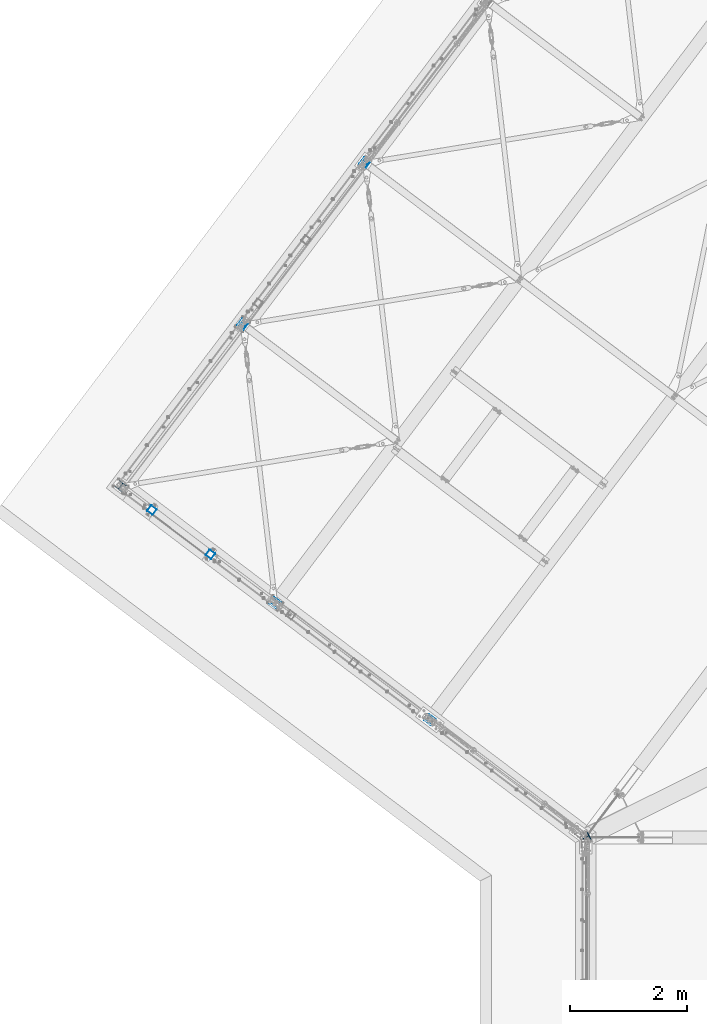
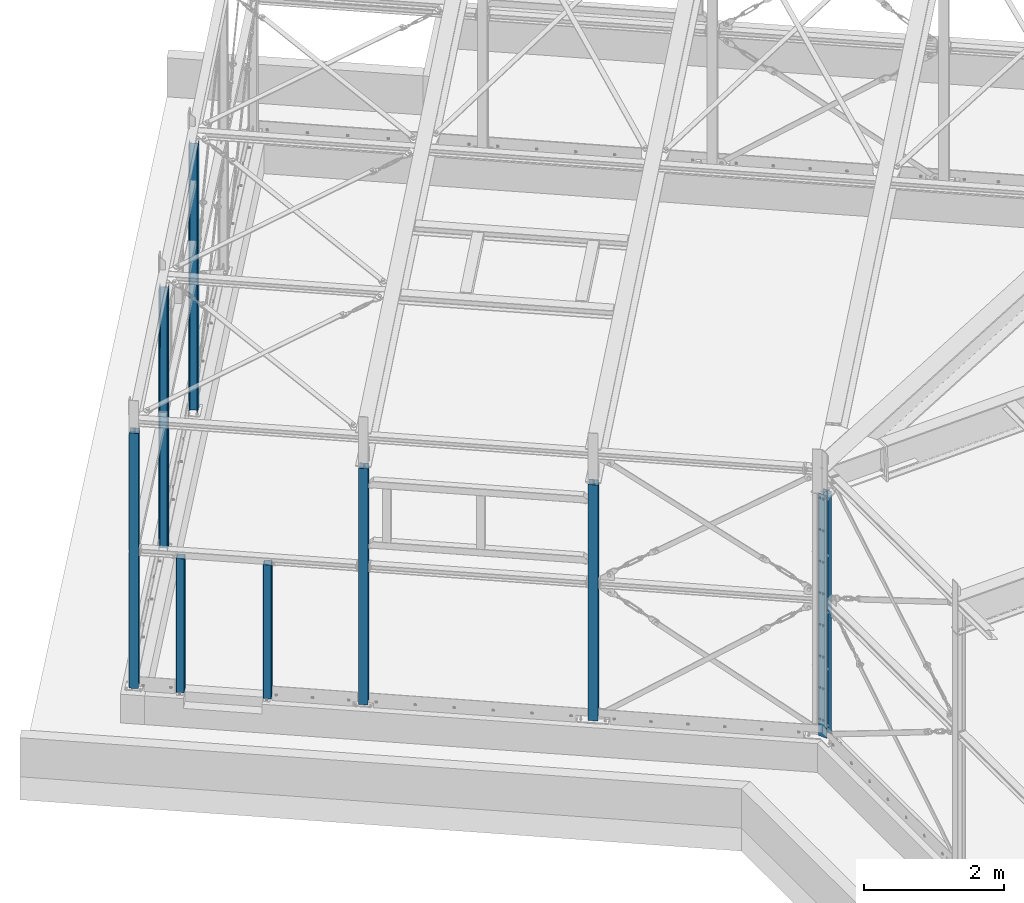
# One storey, part 3 of 476: 8 columns, 18 openings.
"""IFC2X3 building model written with IfcOpenShell, lengths in millimetres."""

from ifc_helpers import new_model, entity, si_unit, converted_unit, frame, frame_2d, origin, origin_with_axes, origin_2d, origin_2d_with_axis, place, context, project, spatial, hollow_rectangle, circle, i_section, extrude, clip, halfspace, material, element, save


model = new_model("IFC2X3")

# Units and contexts
model_context = context("Model", 3, precision=1e-09, world=origin_with_axes())
ifc_project = project(units=[si_unit("LENGTHUNIT", "METRE", prefix="MILLI"), si_unit("AREAUNIT", "SQUARE_METRE"), si_unit("VOLUMEUNIT", "CUBIC_METRE"), converted_unit("PLANEANGLEUNIT", "DEGREE", entity("IfcPlaneAngleMeasure", 0.01745329), si_unit("PLANEANGLEUNIT", "RADIAN"), dimensions=[0, 0, 0, 0, 0, 0, 0])], contexts=[model_context])

# Site, building, storey
site_placement = place(None, origin_with_axes())
site = spatial("IfcSite", under=ifc_project, at=site_placement, Name="mKR Teilneubau & Sanierung BA1 - Ostfildern", CompositionType="ELEMENT")
building_placement = place(site_placement, origin_with_axes())
building = spatial("IfcBuilding", under=site, at=building_placement, Name="Struktur 1", CompositionType="ELEMENT")
storey_placement = place(building_placement, origin_with_axes())
storey = spatial("IfcBuildingStorey", under=building, at=storey_placement, Name="Default Storey", CompositionType="ELEMENT", Elevation=0.0)

# Columns
ifc_material = material(Name="S235JR")
column_1_placement = place(None, frame((5511.551298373, -3943.90111112, 403.448200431), z_axis=(0.0, 0.0, 1.0), x_axis=(0.797941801, -0.602734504, 0.0)))
element("IfcColumn", 1, at=column_1_placement, inside=storey, material=ifc_material, Name="-", ObjectType="-", context=model_context, shape_type="Clipping", body=[
    clip(clip(extrude(i_section(OverallWidth=140.0, OverallDepth=133.0, WebThickness=5.5, FlangeThickness=8.5, FilletRadius=12.0, at=origin_2d()), origin(), (0.0, 0.0, 1.0), 4667.258662), halfspace(frame((-6775.022448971, -174.998585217, 141.552799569), z_axis=(0.0, 0.0, 1.0), x_axis=(0.797941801, 0.602734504, 0.0)), True)), halfspace(frame((-6775.022448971, -314.591712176, 4241.062548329), z_axis=(0.0, 0.030041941, -0.999548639), x_axis=(-1.0, 0.0, 0.0)), True)),
])
column_2_placement = place(None, frame((2878.343326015, -1954.877200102, 403.448200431), z_axis=(0.0, 0.0, 1.0), x_axis=(0.797941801, -0.602734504, 0.0)))
element("IfcColumn", 2, at=column_2_placement, inside=storey, material=ifc_material, Name="-", ObjectType="-", context=model_context, shape_type="Clipping", body=[
    clip(clip(extrude(i_section(OverallWidth=140.0, OverallDepth=133.0, WebThickness=5.5, FlangeThickness=8.5, FilletRadius=12.0, at=origin_2d()), origin(), (0.0, 0.0, 1.0), 4667.258662), halfspace(frame((-3475.022396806, -174.998604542, 136.552799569), z_axis=(0.0, 0.0, 1.0), x_axis=(0.797941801, 0.602734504, 0.0)), True)), halfspace(frame((-3475.022396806, -314.591731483, 4241.062547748), z_axis=(0.0, 0.030041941, -0.999548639), x_axis=(-1.0, 0.0, 0.0)), True)),
])

# Column, openings
column_3_placement = place(None, frame((247.928213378, 32.037091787, 403.448200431), z_axis=(0.0, 0.0, 1.0), x_axis=(0.797941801, -0.602734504, 0.0)))
column_3 = element("IfcColumn", 3, at=column_3_placement, inside=storey, material=ifc_material, Name="-", ObjectType="-", context=model_context, shape_type="Clipping", body=[
    clip(clip(extrude(i_section(OverallWidth=140.0, OverallDepth=133.0, WebThickness=5.5, FlangeThickness=8.5, FilletRadius=12.0, at=origin_2d()), origin(), (0.0, 0.0, 1.0), 4900.868392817), halfspace(frame((-178.522424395, -174.9986235, 136.552799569), z_axis=(0.0, 0.0, 1.0), x_axis=(0.797941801, 0.602734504, 0.0)), True)), halfspace(frame((-178.522424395, -324.505591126, 4570.913598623), z_axis=(0.0, 0.030041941, -0.999548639), x_axis=(-1.0, 0.0, 0.0)), True)),
])
opening_1_placement = place(column_3_placement, frame((-38.500020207, 57.5, 2508.55179957), z_axis=(0.0, 1.0, 0.0), x_axis=(-1.0, 0.0, 0.0)))
element("IfcOpeningElement", 4, at=opening_1_placement, cuts=column_3, ObjectType="Opening", context=model_context, shape_type="SweptSolid", body=[
    extrude(circle(Radius=7.001, at=origin_2d_with_axis()), origin(), (0.0, 0.0, 1.0), 9.5),
])
opening_2_placement = place(column_3_placement, frame((31.499979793, 57.5, 2508.55179957), z_axis=(0.0, 1.0, 0.0), x_axis=(0.0, 0.0, 1.0)))
element("IfcOpeningElement", 5, at=opening_2_placement, cuts=column_3, ObjectType="Opening", context=model_context, shape_type="SweptSolid", body=[
    extrude(circle(Radius=7.001, at=origin_2d_with_axis()), origin(), (0.0, 0.0, 1.0), 9.5),
])

# Columns
column_4_placement = place(None, frame((4404.003464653, 5539.945112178, 403.448200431), z_axis=(0.0, 0.0, 1.0), x_axis=(0.602734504, 0.797941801, 0.0)))
element("IfcColumn", 6, at=column_4_placement, inside=storey, material=ifc_material, Name="-", ObjectType="-", context=model_context, shape_type="Clipping", body=[
    clip(clip(extrude(i_section(OverallWidth=140.0, OverallDepth=133.0, WebThickness=5.5, FlangeThickness=8.5, FilletRadius=12.0, at=origin_2d()), origin(), (0.0, 0.0, 1.0), 5108.251393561), halfspace(frame((-7074.998623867, 175.022383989, 141.552799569), z_axis=(0.0, 0.0, 1.0), x_axis=(0.602734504, -0.797941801, 0.0)), True)), halfspace(frame((-7224.505591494, 175.022383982, 4570.913598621), z_axis=(0.030041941, 0.0, -0.999548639), x_axis=(0.0, 1.0, 0.0)), True)),
])
column_5_placement = place(None, frame((2324.569408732, 2787.045911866, 403.448200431), z_axis=(0.0, 0.0, 1.0), x_axis=(0.602734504, 0.797941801, 0.0)))
element("IfcColumn", 7, at=column_5_placement, inside=storey, material=ifc_material, Name="-", ObjectType="-", context=model_context, shape_type="Clipping", body=[
    clip(clip(extrude(i_section(OverallWidth=140.0, OverallDepth=133.0, WebThickness=5.5, FlangeThickness=8.5, FilletRadius=12.0, at=origin_2d()), origin(), (0.0, 0.0, 1.0), 5004.559893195), halfspace(frame((-3624.998623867, 175.022363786, 136.552799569), z_axis=(0.0, 0.0, 1.0), x_axis=(0.602734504, -0.797941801, 0.0)), True)), halfspace(frame((-3774.505591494, 175.022363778, 4570.913598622), z_axis=(0.030041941, 0.0, -0.999548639), x_axis=(0.0, 1.0, 0.0)), True)),
])
column_6_placement = place(None, frame((1773.26714073, -1128.289522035, 2855.0), z_axis=(0.0, 0.0, -1.0), x_axis=(0.797941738, -0.602734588, 0.0)))
element("IfcColumn", 8, at=column_6_placement, inside=storey, material=ifc_material, Name="-", ObjectType="-", context=model_context, shape_type="Clipping", body=[
    clip(extrude(hollow_rectangle(XDim=120.0, YDim=120.0, WallThickness=4.0, InnerFilletRadius=4.0, OuterFilletRadius=8.0, at=origin_2d()), origin(), (0.0, 0.0, 1.0), 2439.852813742), halfspace(frame((-2095.022983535, 168.500137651, 2329.999), z_axis=(0.0, 0.0, -1.0), x_axis=(0.797941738, -0.602734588, 0.0)), True)),
])

# Column, openings
column_7_placement = place(None, frame((8165.608715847, -5948.675312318, 403.448200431), z_axis=(1.18e-07, 0.0, 1.0), x_axis=(-0.445738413, 0.895163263, 0.0)))
column_7 = element("IfcColumn", 9, at=column_7_placement, inside=storey, material=ifc_material, Name="-", ObjectType="-", context=model_context, shape_type="Clipping", body=[
    clip(clip(extrude(i_section(OverallWidth=140.0, OverallDepth=133.0, WebThickness=5.5, FlangeThickness=8.5, FilletRadius=12.0, at=origin_2d()), origin(), (0.0, 0.0, 1.0), 4667.250049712), halfspace(frame((8964.761072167, 4657.999795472, 141.552799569), z_axis=(0.0, 0.0, 1.0), x_axis=(-0.445738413, -0.895163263, 0.0)), True)), halfspace(frame((8964.76888428, 4782.716160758, 4231.88948807), z_axis=(-1.685e-06, -0.026895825, -0.999638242), x_axis=(0.999999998, -6.2639e-05, 0.0)), True)),
])
opening_3_placement = place(column_7_placement, frame((-0.000425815, 57.5, 2367.674890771), z_axis=(0.0, 1.0, 0.0), x_axis=(-1.0, 0.0, 0.0)))
element("IfcOpeningElement", 10, at=opening_3_placement, cuts=column_7, ObjectType="Opening", context=model_context, shape_type="SweptSolid", body=[
    extrude(circle(Radius=7.001, at=frame_2d((35.0, 275.0), x_axis=(1.0, 0.0))), origin(), (0.0, 0.0, 1.0), 9.5),
])
opening_4_placement = place(column_7_placement, frame((-0.000425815, 57.5, 2367.674890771), z_axis=(0.0, 1.0, 0.0), x_axis=(-1.0, 0.0, 0.0)))
element("IfcOpeningElement", 11, at=opening_4_placement, cuts=column_7, ObjectType="Opening", context=model_context, shape_type="SweptSolid", body=[
    extrude(circle(Radius=7.001, at=frame_2d((-35.0, 275.0), x_axis=(1.0, 0.0))), origin(), (0.0, 0.0, 1.0), 9.5),
])
opening_5_placement = place(column_7_placement, frame((-0.000425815, 57.5, 2367.674890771), z_axis=(0.0, 1.0, 0.0), x_axis=(-1.0, 0.0, 0.0)))
element("IfcOpeningElement", 12, at=opening_5_placement, cuts=column_7, ObjectType="Opening", context=model_context, shape_type="SweptSolid", body=[
    extrude(circle(Radius=7.001, at=frame_2d((35.0, -275.0), x_axis=(1.0, 0.0))), origin(), (0.0, 0.0, 1.0), 9.5),
])
opening_6_placement = place(column_7_placement, frame((-0.000425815, 57.5, 2367.674890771), z_axis=(0.0, 1.0, 0.0), x_axis=(-1.0, 0.0, 0.0)))
element("IfcOpeningElement", 13, at=opening_6_placement, cuts=column_7, ObjectType="Opening", context=model_context, shape_type="SweptSolid", body=[
    extrude(circle(Radius=7.001, at=frame_2d((-35.0, -275.0), x_axis=(1.0, 0.0))), origin(), (0.0, 0.0, 1.0), 9.5),
])
opening_7_placement = place(column_7_placement, frame((-0.000425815, 57.5, 2367.674890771), z_axis=(0.0, 1.0, 0.0), x_axis=(-1.0, 0.0, 0.0)))
element("IfcOpeningElement", 14, at=opening_7_placement, cuts=column_7, ObjectType="Opening", context=model_context, shape_type="SweptSolid", body=[
    extrude(circle(Radius=7.001, at=frame_2d((35.0, 825.0), x_axis=(1.0, 0.0))), origin(), (0.0, 0.0, 1.0), 9.5),
])
opening_8_placement = place(column_7_placement, frame((-0.000425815, 57.5, 2367.674890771), z_axis=(0.0, 1.0, 0.0), x_axis=(-1.0, 0.0, 0.0)))
element("IfcOpeningElement", 15, at=opening_8_placement, cuts=column_7, ObjectType="Opening", context=model_context, shape_type="SweptSolid", body=[
    extrude(circle(Radius=7.001, at=frame_2d((-35.0, 825.0), x_axis=(1.0, 0.0))), origin(), (0.0, 0.0, 1.0), 9.5),
])
opening_9_placement = place(column_7_placement, frame((-0.000425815, 57.5, 2367.674890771), z_axis=(0.0, 1.0, 0.0), x_axis=(-1.0, 0.0, 0.0)))
element("IfcOpeningElement", 16, at=opening_9_placement, cuts=column_7, ObjectType="Opening", context=model_context, shape_type="SweptSolid", body=[
    extrude(circle(Radius=7.001, at=frame_2d((35.0, -825.0), x_axis=(1.0, 0.0))), origin(), (0.0, 0.0, 1.0), 9.5),
])
opening_10_placement = place(column_7_placement, frame((-0.000425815, 57.5, 2367.674890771), z_axis=(0.0, 1.0, 0.0), x_axis=(-1.0, 0.0, 0.0)))
element("IfcOpeningElement", 17, at=opening_10_placement, cuts=column_7, ObjectType="Opening", context=model_context, shape_type="SweptSolid", body=[
    extrude(circle(Radius=7.001, at=frame_2d((-35.0, -825.0), x_axis=(1.0, 0.0))), origin(), (0.0, 0.0, 1.0), 9.5),
])
opening_11_placement = place(column_7_placement, frame((-0.000425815, 57.5, 2367.674890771), z_axis=(0.0, 1.0, 0.0), x_axis=(-1.0, 0.0, 0.0)))
element("IfcOpeningElement", 18, at=opening_11_placement, cuts=column_7, ObjectType="Opening", context=model_context, shape_type="SweptSolid", body=[
    extrude(circle(Radius=7.001, at=frame_2d((35.0, 1375.0), x_axis=(1.0, 0.0))), origin(), (0.0, 0.0, 1.0), 9.5),
])
opening_12_placement = place(column_7_placement, frame((-0.000425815, 57.5, 2367.674890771), z_axis=(0.0, 1.0, 0.0), x_axis=(-1.0, 0.0, 0.0)))
element("IfcOpeningElement", 19, at=opening_12_placement, cuts=column_7, ObjectType="Opening", context=model_context, shape_type="SweptSolid", body=[
    extrude(circle(Radius=7.001, at=frame_2d((-35.0, 1375.0), x_axis=(1.0, 0.0))), origin(), (0.0, 0.0, 1.0), 9.5),
])
opening_13_placement = place(column_7_placement, frame((-0.000425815, 57.5, 2367.674890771), z_axis=(0.0, 1.0, 0.0), x_axis=(-1.0, 0.0, 0.0)))
element("IfcOpeningElement", 20, at=opening_13_placement, cuts=column_7, ObjectType="Opening", context=model_context, shape_type="SweptSolid", body=[
    extrude(circle(Radius=7.001, at=frame_2d((35.0, -1375.0), x_axis=(1.0, 0.0))), origin(), (0.0, 0.0, 1.0), 9.5),
])
opening_14_placement = place(column_7_placement, frame((-0.000425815, 57.5, 2367.674890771), z_axis=(0.0, 1.0, 0.0), x_axis=(-1.0, 0.0, 0.0)))
element("IfcOpeningElement", 21, at=opening_14_placement, cuts=column_7, ObjectType="Opening", context=model_context, shape_type="SweptSolid", body=[
    extrude(circle(Radius=7.001, at=frame_2d((-35.0, -1375.0), x_axis=(1.0, 0.0))), origin(), (0.0, 0.0, 1.0), 9.5),
])
opening_15_placement = place(column_7_placement, frame((-0.000425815, 57.5, 2367.674890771), z_axis=(0.0, 1.0, 0.0), x_axis=(-1.0, 0.0, 0.0)))
element("IfcOpeningElement", 22, at=opening_15_placement, cuts=column_7, ObjectType="Opening", context=model_context, shape_type="SweptSolid", body=[
    extrude(circle(Radius=7.001, at=frame_2d((35.0, 1925.0), x_axis=(1.0, 0.0))), origin(), (0.0, 0.0, 1.0), 9.5),
])
opening_16_placement = place(column_7_placement, frame((-0.000425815, 57.5, 2367.674890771), z_axis=(0.0, 1.0, 0.0), x_axis=(-1.0, 0.0, 0.0)))
element("IfcOpeningElement", 23, at=opening_16_placement, cuts=column_7, ObjectType="Opening", context=model_context, shape_type="SweptSolid", body=[
    extrude(circle(Radius=7.001, at=frame_2d((-35.0, 1925.0), x_axis=(1.0, 0.0))), origin(), (0.0, 0.0, 1.0), 9.5),
])
opening_17_placement = place(column_7_placement, frame((-0.000425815, 57.5, 2367.674890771), z_axis=(0.0, 1.0, 0.0), x_axis=(-1.0, 0.0, 0.0)))
element("IfcOpeningElement", 24, at=opening_17_placement, cuts=column_7, ObjectType="Opening", context=model_context, shape_type="SweptSolid", body=[
    extrude(circle(Radius=7.001, at=frame_2d((35.0, -1925.0), x_axis=(1.0, 0.0))), origin(), (0.0, 0.0, 1.0), 9.5),
])
opening_18_placement = place(column_7_placement, frame((-0.000425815, 57.5, 2367.674890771), z_axis=(0.0, 1.0, 0.0), x_axis=(-1.0, 0.0, 0.0)))
element("IfcOpeningElement", 25, at=opening_18_placement, cuts=column_7, ObjectType="Opening", context=model_context, shape_type="SweptSolid", body=[
    extrude(circle(Radius=7.001, at=frame_2d((-35.0, -1925.0), x_axis=(1.0, 0.0))), origin(), (0.0, 0.0, 1.0), 9.5),
])

# Column
column_8_placement = place(None, frame((775.838253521, -374.869974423, 2855.0), z_axis=(0.0, 0.0, 1.0), x_axis=(-0.797941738, 0.602734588, 0.0)))
element("IfcColumn", 26, at=column_8_placement, inside=storey, material=ifc_material, Name="-", ObjectType="-", context=model_context, shape_type="Clipping", body=[
    clip(extrude(hollow_rectangle(XDim=120.0, YDim=120.0, WallThickness=4.0, InnerFilletRadius=4.0, OuterFilletRadius=8.0, at=origin_2d()), origin(), (0.0, 0.0, -1.0), 2439.852813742), halfspace(frame((845.020823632, 168.500151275, -2329.999), z_axis=(0.0, 0.0, 1.0), x_axis=(-0.797941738, -0.602734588, 0.0)), True)),
])

save(model, "model.ifc")
